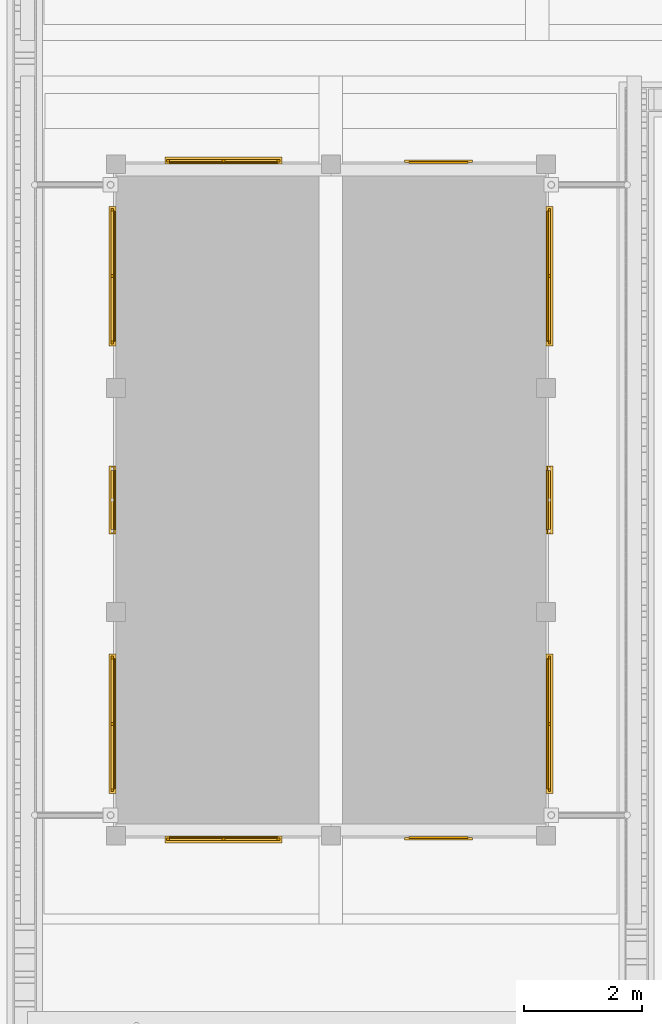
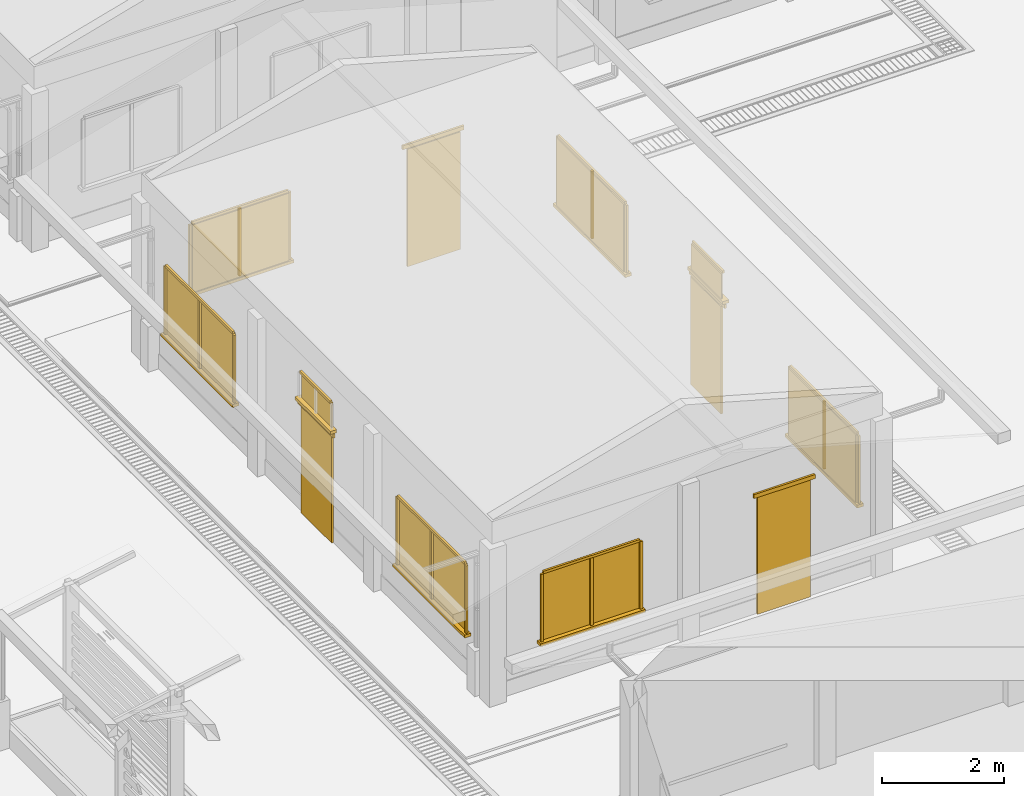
# One storey, part 45 of 151: 42 windows, 8 doors.
"""IFC2X3 building model written with IfcOpenShell, lengths in metres."""

from ifc_helpers import new_model, si_unit, origin, origin_with_axes, place, context, subcontext, project, spatial, faceted_brep, element, save


model = new_model("IFC2X3")

# Units and contexts
model_context = context("Model", 3, precision=1e-05, world=origin_with_axes())
body_context = subcontext(model_context, "Body", "Model", "MODEL_VIEW")
ifc_project = project(units=[si_unit("LENGTHUNIT", "METRE"), si_unit("AREAUNIT", "SQUARE_METRE"), si_unit("VOLUMEUNIT", "CUBIC_METRE"), si_unit("PLANEANGLEUNIT", "RADIAN")], contexts=[model_context])

# Site, building, storey
site_placement = place(None, origin_with_axes())
site = spatial("IfcSite", under=ifc_project, at=site_placement, Name="Predio Los Mangos - Morales, San Martín", CompositionType="ELEMENT")
building_placement = place(site_placement, origin())
building = spatial("IfcBuilding", under=site, at=building_placement, Name="Hogar de Refugio Temporal", CompositionType="ELEMENT")
storey_placement = place(building_placement, origin())
storey = spatial("IfcBuildingStorey", under=building, at=storey_placement, Name="NIVEL 1 (NPT +0.00)", CompositionType="ELEMENT", Elevation=0.0)

# Windows
window_1_placement = place(storey_placement, origin())
element("IfcWindow", 1, at=window_1_placement, inside=storey, Name="E-02_vg0_vid", ObjectType="Ventana", context=body_context, shape_type="Brep", body=[
    faceted_brep([(46.2125, 42.86, 1.05), (46.2125, 42.88, 1.05), (48.0375, 42.88, 1.05), (48.0375, 42.86, 1.05), (46.2125, 42.86, 2.4), (48.0375, 42.86, 2.4), (48.0375, 42.88, 2.4), (46.2125, 42.88, 2.4)], [[[0, 1, 2, 3]], [[4, 5, 6, 7]], [[0, 3, 5, 4]], [[3, 2, 6, 5]], [[2, 1, 7, 6]], [[1, 0, 4, 7]]]),
])
window_2_placement = place(storey_placement, origin())
element("IfcWindow", 2, at=window_2_placement, inside=storey, Name="E-02_vg0_m", ObjectType="Ventana", context=body_context, shape_type="Brep", body=[
    faceted_brep([(46.1625, 42.82, 1.05), (46.1625, 42.86, 1.05), (46.2125, 42.86, 1.05), (46.2125, 42.82, 1.05), (46.1625, 42.82, 2.4), (46.2125, 42.82, 2.4), (46.2125, 42.86, 2.4), (46.1625, 42.86, 2.4)], [[[0, 1, 2, 3]], [[4, 5, 6, 7]], [[0, 3, 5, 4]], [[3, 2, 6, 5]], [[2, 1, 7, 6]], [[1, 0, 4, 7]]]),
])
window_3_placement = place(storey_placement, origin())
element("IfcWindow", 3, at=window_3_placement, inside=storey, Name="E-02_vg0_m", ObjectType="Ventana", context=body_context, shape_type="Brep", body=[
    faceted_brep([(48.0375, 42.82, 1.05), (48.0375, 42.86, 1.05), (48.0875, 42.86, 1.05), (48.0875, 42.82, 1.05), (48.0375, 42.82, 2.4), (48.0875, 42.82, 2.4), (48.0875, 42.86, 2.4), (48.0375, 42.86, 2.4)], [[[0, 1, 2, 3]], [[4, 5, 6, 7]], [[0, 3, 5, 4]], [[3, 2, 6, 5]], [[2, 1, 7, 6]], [[1, 0, 4, 7]]]),
])
window_4_placement = place(storey_placement, origin())
element("IfcWindow", 4, at=window_4_placement, inside=storey, Name="E-02_vg0_m", ObjectType="Ventana", context=body_context, shape_type="Brep", body=[
    faceted_brep([(46.2125, 42.82, 2.4), (46.2125, 42.86, 2.4), (48.0375, 42.86, 2.4), (48.0375, 42.82, 2.4), (46.2125, 42.82, 2.45), (48.0375, 42.82, 2.45), (48.0375, 42.86, 2.45), (46.2125, 42.86, 2.45)], [[[0, 1, 2, 3]], [[4, 5, 6, 7]], [[0, 3, 5, 4]], [[3, 2, 6, 5]], [[2, 1, 7, 6]], [[1, 0, 4, 7]]]),
])
window_5_placement = place(storey_placement, origin())
element("IfcWindow", 5, at=window_5_placement, inside=storey, Name="E-02_vg0_m", ObjectType="Ventana", context=body_context, shape_type="Brep", body=[
    faceted_brep([(47.1, 42.82, 1.05), (47.1, 42.86, 1.05), (47.15, 42.86, 1.05), (47.15, 42.82, 1.05), (47.1, 42.82, 2.4), (47.15, 42.82, 2.4), (47.15, 42.86, 2.4), (47.1, 42.86, 2.4)], [[[0, 1, 2, 3]], [[4, 5, 6, 7]], [[0, 3, 5, 4]], [[3, 2, 6, 5]], [[2, 1, 7, 6]], [[1, 0, 4, 7]]]),
])
window_6_placement = place(storey_placement, origin())
element("IfcWindow", 6, at=window_6_placement, inside=storey, Name="E-02_vg0_alf", ObjectType="Ventana", context=body_context, shape_type="Brep", body=[
    faceted_brep([(46.1325, 42.9, 0.99), (46.1325, 42.78, 0.99), (48.1175, 42.78, 0.99), (48.1175, 42.9, 0.99), (46.1325, 42.9, 1.05), (48.1175, 42.9, 1.05), (48.1175, 42.78, 1.05), (46.1325, 42.78, 1.05)], [[[0, 1, 2, 3]], [[4, 5, 6, 7]], [[0, 3, 5, 4]], [[3, 2, 6, 5]], [[2, 1, 7, 6]], [[1, 0, 4, 7]]]),
])

# Doors
door_1_placement = place(storey_placement, origin())
element("IfcDoor", 7, at=door_1_placement, inside=storey, Name="E-02_pp", ObjectType="Puerta", context=body_context, shape_type="Brep", body=[
    faceted_brep([(50.275, 42.85, 0.15), (50.275, 42.89, 0.15), (51.275, 42.89, 0.15), (51.275, 42.85, 0.15), (50.275, 42.85, 2.5), (51.275, 42.85, 2.5), (51.275, 42.89, 2.5), (50.275, 42.89, 2.5)], [[[0, 1, 2, 3]], [[4, 5, 6, 7]], [[0, 3, 5, 4]], [[3, 2, 6, 5]], [[2, 1, 7, 6]], [[1, 0, 4, 7]]]),
])
door_2_placement = place(storey_placement, origin())
element("IfcDoor", 8, at=door_2_placement, inside=storey, Name="E-02_pp_marco", ObjectType="Puerta", context=body_context, shape_type="Brep", body=[
    faceted_brep([(50.195, 42.83, 2.5), (50.195, 42.87, 2.5), (51.355, 42.87, 2.5), (51.355, 42.83, 2.5), (50.195, 42.83, 2.58), (51.355, 42.83, 2.58), (51.355, 42.87, 2.58), (50.195, 42.87, 2.58)], [[[0, 1, 2, 3]], [[4, 5, 6, 7]], [[0, 3, 5, 4]], [[3, 2, 6, 5]], [[2, 1, 7, 6]], [[1, 0, 4, 7]]]),
])

# Windows
window_7_placement = place(storey_placement, origin())
element("IfcWindow", 9, at=window_7_placement, inside=storey, Name="E-02_vg0_vid", ObjectType="Ventana", context=body_context, shape_type="Brep", body=[
    faceted_brep([(46.2125, 54.32, 1.05), (46.2125, 54.34, 1.05), (48.0375, 54.34, 1.05), (48.0375, 54.32, 1.05), (46.2125, 54.32, 2.4), (48.0375, 54.32, 2.4), (48.0375, 54.34, 2.4), (46.2125, 54.34, 2.4)], [[[0, 1, 2, 3]], [[4, 5, 6, 7]], [[0, 3, 5, 4]], [[3, 2, 6, 5]], [[2, 1, 7, 6]], [[1, 0, 4, 7]]]),
])
window_8_placement = place(storey_placement, origin())
element("IfcWindow", 10, at=window_8_placement, inside=storey, Name="E-02_vg0_m", ObjectType="Ventana", context=body_context, shape_type="Brep", body=[
    faceted_brep([(46.1625, 54.34, 1.05), (46.1625, 54.38, 1.05), (46.2125, 54.38, 1.05), (46.2125, 54.34, 1.05), (46.1625, 54.34, 2.4), (46.2125, 54.34, 2.4), (46.2125, 54.38, 2.4), (46.1625, 54.38, 2.4)], [[[0, 1, 2, 3]], [[4, 5, 6, 7]], [[0, 3, 5, 4]], [[3, 2, 6, 5]], [[2, 1, 7, 6]], [[1, 0, 4, 7]]]),
])
window_9_placement = place(storey_placement, origin())
element("IfcWindow", 11, at=window_9_placement, inside=storey, Name="E-02_vg0_m", ObjectType="Ventana", context=body_context, shape_type="Brep", body=[
    faceted_brep([(48.0375, 54.34, 1.05), (48.0375, 54.38, 1.05), (48.0875, 54.38, 1.05), (48.0875, 54.34, 1.05), (48.0375, 54.34, 2.4), (48.0875, 54.34, 2.4), (48.0875, 54.38, 2.4), (48.0375, 54.38, 2.4)], [[[0, 1, 2, 3]], [[4, 5, 6, 7]], [[0, 3, 5, 4]], [[3, 2, 6, 5]], [[2, 1, 7, 6]], [[1, 0, 4, 7]]]),
])
window_10_placement = place(storey_placement, origin())
element("IfcWindow", 12, at=window_10_placement, inside=storey, Name="E-02_vg0_m", ObjectType="Ventana", context=body_context, shape_type="Brep", body=[
    faceted_brep([(46.2125, 54.34, 2.4), (46.2125, 54.38, 2.4), (48.0375, 54.38, 2.4), (48.0375, 54.34, 2.4), (46.2125, 54.34, 2.45), (48.0375, 54.34, 2.45), (48.0375, 54.38, 2.45), (46.2125, 54.38, 2.45)], [[[0, 1, 2, 3]], [[4, 5, 6, 7]], [[0, 3, 5, 4]], [[3, 2, 6, 5]], [[2, 1, 7, 6]], [[1, 0, 4, 7]]]),
])
window_11_placement = place(storey_placement, origin())
element("IfcWindow", 13, at=window_11_placement, inside=storey, Name="E-02_vg0_m", ObjectType="Ventana", context=body_context, shape_type="Brep", body=[
    faceted_brep([(47.1, 54.34, 1.05), (47.1, 54.38, 1.05), (47.15, 54.38, 1.05), (47.15, 54.34, 1.05), (47.1, 54.34, 2.4), (47.15, 54.34, 2.4), (47.15, 54.38, 2.4), (47.1, 54.38, 2.4)], [[[0, 1, 2, 3]], [[4, 5, 6, 7]], [[0, 3, 5, 4]], [[3, 2, 6, 5]], [[2, 1, 7, 6]], [[1, 0, 4, 7]]]),
])
window_12_placement = place(storey_placement, origin())
element("IfcWindow", 14, at=window_12_placement, inside=storey, Name="E-02_vg0_alf", ObjectType="Ventana", context=body_context, shape_type="Brep", body=[
    faceted_brep([(46.1325, 54.3, 0.99), (46.1325, 54.42, 0.99), (48.1175, 54.42, 0.99), (48.1175, 54.3, 0.99), (46.1325, 54.3, 1.05), (48.1175, 54.3, 1.05), (48.1175, 54.42, 1.05), (46.1325, 54.42, 1.05)], [[[0, 1, 2, 3]], [[4, 5, 6, 7]], [[0, 3, 5, 4]], [[3, 2, 6, 5]], [[2, 1, 7, 6]], [[1, 0, 4, 7]]]),
])

# Doors
door_3_placement = place(storey_placement, origin())
element("IfcDoor", 15, at=door_3_placement, inside=storey, Name="E-02_pp", ObjectType="Puerta", context=body_context, shape_type="Brep", body=[
    faceted_brep([(50.275, 54.31, 0.15), (50.275, 54.35, 0.15), (51.275, 54.35, 0.15), (51.275, 54.31, 0.15), (50.275, 54.31, 2.5), (51.275, 54.31, 2.5), (51.275, 54.35, 2.5), (50.275, 54.35, 2.5)], [[[0, 1, 2, 3]], [[4, 5, 6, 7]], [[0, 3, 5, 4]], [[3, 2, 6, 5]], [[2, 1, 7, 6]], [[1, 0, 4, 7]]]),
])
door_4_placement = place(storey_placement, origin())
element("IfcDoor", 16, at=door_4_placement, inside=storey, Name="E-02_pp_marco", ObjectType="Puerta", context=body_context, shape_type="Brep", body=[
    faceted_brep([(50.195, 54.33, 2.5), (50.195, 54.37, 2.5), (51.355, 54.37, 2.5), (51.355, 54.33, 2.5), (50.195, 54.33, 2.58), (51.355, 54.33, 2.58), (51.355, 54.37, 2.58), (50.195, 54.37, 2.58)], [[[0, 1, 2, 3]], [[4, 5, 6, 7]], [[0, 3, 5, 4]], [[3, 2, 6, 5]], [[2, 1, 7, 6]], [[1, 0, 4, 7]]]),
])

# Windows
window_13_placement = place(storey_placement, origin())
element("IfcWindow", 17, at=window_13_placement, inside=storey, Name="E-02_v0_vid", ObjectType="Ventana", context=body_context, shape_type="Brep", body=[
    faceted_brep([(45.26, 43.698, 1.05), (45.26, 45.902, 1.05), (45.28, 45.902, 1.05), (45.28, 43.698, 1.05), (45.26, 43.698, 2.4), (45.28, 43.698, 2.4), (45.28, 45.902, 2.4), (45.26, 45.902, 2.4)], [[[0, 1, 2, 3]], [[4, 5, 6, 7]], [[0, 3, 5, 4]], [[3, 2, 6, 5]], [[2, 1, 7, 6]], [[1, 0, 4, 7]]]),
])
window_14_placement = place(storey_placement, origin())
element("IfcWindow", 18, at=window_14_placement, inside=storey, Name="E-02_v0_m", ObjectType="Ventana", context=body_context, shape_type="Brep", body=[
    faceted_brep([(45.22, 43.648, 1.05), (45.22, 43.698, 1.05), (45.26, 43.698, 1.05), (45.26, 43.648, 1.05), (45.22, 43.648, 2.4), (45.26, 43.648, 2.4), (45.26, 43.698, 2.4), (45.22, 43.698, 2.4)], [[[0, 1, 2, 3]], [[4, 5, 6, 7]], [[0, 3, 5, 4]], [[3, 2, 6, 5]], [[2, 1, 7, 6]], [[1, 0, 4, 7]]]),
])
window_15_placement = place(storey_placement, origin())
element("IfcWindow", 19, at=window_15_placement, inside=storey, Name="E-02_v0_m", ObjectType="Ventana", context=body_context, shape_type="Brep", body=[
    faceted_brep([(45.22, 45.902, 1.05), (45.22, 45.952, 1.05), (45.26, 45.952, 1.05), (45.26, 45.902, 1.05), (45.22, 45.902, 2.4), (45.26, 45.902, 2.4), (45.26, 45.952, 2.4), (45.22, 45.952, 2.4)], [[[0, 1, 2, 3]], [[4, 5, 6, 7]], [[0, 3, 5, 4]], [[3, 2, 6, 5]], [[2, 1, 7, 6]], [[1, 0, 4, 7]]]),
])
window_16_placement = place(storey_placement, origin())
element("IfcWindow", 20, at=window_16_placement, inside=storey, Name="E-02_v0_m", ObjectType="Ventana", context=body_context, shape_type="Brep", body=[
    faceted_brep([(45.22, 43.698, 2.4), (45.22, 45.902, 2.4), (45.26, 45.902, 2.4), (45.26, 43.698, 2.4), (45.22, 43.698, 2.45), (45.26, 43.698, 2.45), (45.26, 45.902, 2.45), (45.22, 45.902, 2.45)], [[[0, 1, 2, 3]], [[4, 5, 6, 7]], [[0, 3, 5, 4]], [[3, 2, 6, 5]], [[2, 1, 7, 6]], [[1, 0, 4, 7]]]),
])
window_17_placement = place(storey_placement, origin())
element("IfcWindow", 21, at=window_17_placement, inside=storey, Name="E-02_v0_m", ObjectType="Ventana", context=body_context, shape_type="Brep", body=[
    faceted_brep([(45.22, 44.775, 1.05), (45.22, 44.825, 1.05), (45.26, 44.825, 1.05), (45.26, 44.775, 1.05), (45.22, 44.775, 2.4), (45.26, 44.775, 2.4), (45.26, 44.825, 2.4), (45.22, 44.825, 2.4)], [[[0, 1, 2, 3]], [[4, 5, 6, 7]], [[0, 3, 5, 4]], [[3, 2, 6, 5]], [[2, 1, 7, 6]], [[1, 0, 4, 7]]]),
])
window_18_placement = place(storey_placement, origin())
element("IfcWindow", 22, at=window_18_placement, inside=storey, Name="E-02_v0_alf", ObjectType="Ventana", context=body_context, shape_type="Brep", body=[
    faceted_brep([(45.3, 43.618, 0.99), (45.3, 45.982, 0.99), (45.18, 45.982, 0.99), (45.18, 43.618, 0.99), (45.3, 43.618, 1.05), (45.18, 43.618, 1.05), (45.18, 45.982, 1.05), (45.3, 45.982, 1.05)], [[[0, 1, 2, 3]], [[4, 5, 6, 7]], [[0, 3, 5, 4]], [[3, 2, 6, 5]], [[2, 1, 7, 6]], [[1, 0, 4, 7]]]),
])

# Doors
door_5_placement = place(storey_placement, origin())
element("IfcDoor", 23, at=door_5_placement, inside=storey, Name="E-02_p1", ObjectType="Puerta", context=body_context, shape_type="Brep", body=[
    faceted_brep([(45.25, 48.1, 0.15), (45.25, 49.1, 0.15), (45.29, 49.1, 0.15), (45.29, 48.1, 0.15), (45.25, 48.1, 2.3), (45.29, 48.1, 2.3), (45.29, 49.1, 2.3), (45.25, 49.1, 2.3)], [[[0, 1, 2, 3]], [[4, 5, 6, 7]], [[0, 3, 5, 4]], [[3, 2, 6, 5]], [[2, 1, 7, 6]], [[1, 0, 4, 7]]]),
])
door_6_placement = place(storey_placement, origin())
element("IfcDoor", 24, at=door_6_placement, inside=storey, Name="E-02_p1_marco", ObjectType="Puerta", context=body_context, shape_type="Brep", body=[
    faceted_brep([(45.23, 48.02, 2.3), (45.23, 49.18, 2.3), (45.27, 49.18, 2.3), (45.27, 48.02, 2.3), (45.23, 48.02, 2.38), (45.27, 48.02, 2.38), (45.27, 49.18, 2.38), (45.23, 49.18, 2.38)], [[[0, 1, 2, 3]], [[4, 5, 6, 7]], [[0, 3, 5, 4]], [[3, 2, 6, 5]], [[2, 1, 7, 6]], [[1, 0, 4, 7]]]),
])

# Windows
window_19_placement = place(storey_placement, origin())
element("IfcWindow", 25, at=window_19_placement, inside=storey, Name="E-02_vt1_vid", ObjectType="Ventana", context=body_context, shape_type="Brep", body=[
    faceted_brep([(45.26, 48.1, 2.45), (45.26, 49.1, 2.45), (45.28, 49.1, 2.45), (45.28, 48.1, 2.45), (45.26, 48.1, 2.95), (45.28, 48.1, 2.95), (45.28, 49.1, 2.95), (45.26, 49.1, 2.95)], [[[0, 1, 2, 3]], [[4, 5, 6, 7]], [[0, 3, 5, 4]], [[3, 2, 6, 5]], [[2, 1, 7, 6]], [[1, 0, 4, 7]]]),
])
window_20_placement = place(storey_placement, origin())
element("IfcWindow", 26, at=window_20_placement, inside=storey, Name="E-02_vt1_m", ObjectType="Ventana", context=body_context, shape_type="Brep", body=[
    faceted_brep([(45.22, 48.1, 2.95), (45.22, 49.1, 2.95), (45.26, 49.1, 2.95), (45.26, 48.1, 2.95), (45.22, 48.1, 3.0), (45.26, 48.1, 3.0), (45.26, 49.1, 3.0), (45.22, 49.1, 3.0)], [[[0, 1, 2, 3]], [[4, 5, 6, 7]], [[0, 3, 5, 4]], [[3, 2, 6, 5]], [[2, 1, 7, 6]], [[1, 0, 4, 7]]]),
])
window_21_placement = place(storey_placement, origin())
element("IfcWindow", 27, at=window_21_placement, inside=storey, Name="E-02_vt1_alf", ObjectType="Ventana", context=body_context, shape_type="Brep", body=[
    faceted_brep([(45.3, 48.02, 2.39), (45.3, 49.18, 2.39), (45.18, 49.18, 2.39), (45.18, 48.02, 2.39), (45.3, 48.02, 2.45), (45.18, 48.02, 2.45), (45.18, 49.18, 2.45), (45.3, 49.18, 2.45)], [[[0, 1, 2, 3]], [[4, 5, 6, 7]], [[0, 3, 5, 4]], [[3, 2, 6, 5]], [[2, 1, 7, 6]], [[1, 0, 4, 7]]]),
])
window_22_placement = place(storey_placement, origin())
element("IfcWindow", 28, at=window_22_placement, inside=storey, Name="E-02_v2_vid", ObjectType="Ventana", context=body_context, shape_type="Brep", body=[
    faceted_brep([(45.26, 51.298, 1.05), (45.26, 53.502, 1.05), (45.28, 53.502, 1.05), (45.28, 51.298, 1.05), (45.26, 51.298, 2.4), (45.28, 51.298, 2.4), (45.28, 53.502, 2.4), (45.26, 53.502, 2.4)], [[[0, 1, 2, 3]], [[4, 5, 6, 7]], [[0, 3, 5, 4]], [[3, 2, 6, 5]], [[2, 1, 7, 6]], [[1, 0, 4, 7]]]),
])
window_23_placement = place(storey_placement, origin())
element("IfcWindow", 29, at=window_23_placement, inside=storey, Name="E-02_v2_m", ObjectType="Ventana", context=body_context, shape_type="Brep", body=[
    faceted_brep([(45.22, 51.248, 1.05), (45.22, 51.298, 1.05), (45.26, 51.298, 1.05), (45.26, 51.248, 1.05), (45.22, 51.248, 2.4), (45.26, 51.248, 2.4), (45.26, 51.298, 2.4), (45.22, 51.298, 2.4)], [[[0, 1, 2, 3]], [[4, 5, 6, 7]], [[0, 3, 5, 4]], [[3, 2, 6, 5]], [[2, 1, 7, 6]], [[1, 0, 4, 7]]]),
])
window_24_placement = place(storey_placement, origin())
element("IfcWindow", 30, at=window_24_placement, inside=storey, Name="E-02_v2_m", ObjectType="Ventana", context=body_context, shape_type="Brep", body=[
    faceted_brep([(45.22, 53.502, 1.05), (45.22, 53.552, 1.05), (45.26, 53.552, 1.05), (45.26, 53.502, 1.05), (45.22, 53.502, 2.4), (45.26, 53.502, 2.4), (45.26, 53.552, 2.4), (45.22, 53.552, 2.4)], [[[0, 1, 2, 3]], [[4, 5, 6, 7]], [[0, 3, 5, 4]], [[3, 2, 6, 5]], [[2, 1, 7, 6]], [[1, 0, 4, 7]]]),
])
window_25_placement = place(storey_placement, origin())
element("IfcWindow", 31, at=window_25_placement, inside=storey, Name="E-02_v2_m", ObjectType="Ventana", context=body_context, shape_type="Brep", body=[
    faceted_brep([(45.22, 51.298, 2.4), (45.22, 53.502, 2.4), (45.26, 53.502, 2.4), (45.26, 51.298, 2.4), (45.22, 51.298, 2.45), (45.26, 51.298, 2.45), (45.26, 53.502, 2.45), (45.22, 53.502, 2.45)], [[[0, 1, 2, 3]], [[4, 5, 6, 7]], [[0, 3, 5, 4]], [[3, 2, 6, 5]], [[2, 1, 7, 6]], [[1, 0, 4, 7]]]),
])
window_26_placement = place(storey_placement, origin())
element("IfcWindow", 32, at=window_26_placement, inside=storey, Name="E-02_v2_m", ObjectType="Ventana", context=body_context, shape_type="Brep", body=[
    faceted_brep([(45.22, 52.375, 1.05), (45.22, 52.425, 1.05), (45.26, 52.425, 1.05), (45.26, 52.375, 1.05), (45.22, 52.375, 2.4), (45.26, 52.375, 2.4), (45.26, 52.425, 2.4), (45.22, 52.425, 2.4)], [[[0, 1, 2, 3]], [[4, 5, 6, 7]], [[0, 3, 5, 4]], [[3, 2, 6, 5]], [[2, 1, 7, 6]], [[1, 0, 4, 7]]]),
])
window_27_placement = place(storey_placement, origin())
element("IfcWindow", 33, at=window_27_placement, inside=storey, Name="E-02_v2_alf", ObjectType="Ventana", context=body_context, shape_type="Brep", body=[
    faceted_brep([(45.3, 51.218, 0.99), (45.3, 53.582, 0.99), (45.18, 53.582, 0.99), (45.18, 51.218, 0.99), (45.3, 51.218, 1.05), (45.18, 51.218, 1.05), (45.18, 53.582, 1.05), (45.3, 53.582, 1.05)], [[[0, 1, 2, 3]], [[4, 5, 6, 7]], [[0, 3, 5, 4]], [[3, 2, 6, 5]], [[2, 1, 7, 6]], [[1, 0, 4, 7]]]),
])
window_28_placement = place(storey_placement, origin())
element("IfcWindow", 34, at=window_28_placement, inside=storey, Name="E-02_v0_vid", ObjectType="Ventana", context=body_context, shape_type="Brep", body=[
    faceted_brep([(52.62, 43.698, 1.05), (52.62, 45.902, 1.05), (52.64, 45.902, 1.05), (52.64, 43.698, 1.05), (52.62, 43.698, 2.4), (52.64, 43.698, 2.4), (52.64, 45.902, 2.4), (52.62, 45.902, 2.4)], [[[0, 1, 2, 3]], [[4, 5, 6, 7]], [[0, 3, 5, 4]], [[3, 2, 6, 5]], [[2, 1, 7, 6]], [[1, 0, 4, 7]]]),
])
window_29_placement = place(storey_placement, origin())
element("IfcWindow", 35, at=window_29_placement, inside=storey, Name="E-02_v0_m", ObjectType="Ventana", context=body_context, shape_type="Brep", body=[
    faceted_brep([(52.64, 43.648, 1.05), (52.64, 43.698, 1.05), (52.68, 43.698, 1.05), (52.68, 43.648, 1.05), (52.64, 43.648, 2.4), (52.68, 43.648, 2.4), (52.68, 43.698, 2.4), (52.64, 43.698, 2.4)], [[[0, 1, 2, 3]], [[4, 5, 6, 7]], [[0, 3, 5, 4]], [[3, 2, 6, 5]], [[2, 1, 7, 6]], [[1, 0, 4, 7]]]),
])
window_30_placement = place(storey_placement, origin())
element("IfcWindow", 36, at=window_30_placement, inside=storey, Name="E-02_v0_m", ObjectType="Ventana", context=body_context, shape_type="Brep", body=[
    faceted_brep([(52.64, 45.902, 1.05), (52.64, 45.952, 1.05), (52.68, 45.952, 1.05), (52.68, 45.902, 1.05), (52.64, 45.902, 2.4), (52.68, 45.902, 2.4), (52.68, 45.952, 2.4), (52.64, 45.952, 2.4)], [[[0, 1, 2, 3]], [[4, 5, 6, 7]], [[0, 3, 5, 4]], [[3, 2, 6, 5]], [[2, 1, 7, 6]], [[1, 0, 4, 7]]]),
])
window_31_placement = place(storey_placement, origin())
element("IfcWindow", 37, at=window_31_placement, inside=storey, Name="E-02_v0_m", ObjectType="Ventana", context=body_context, shape_type="Brep", body=[
    faceted_brep([(52.64, 43.698, 2.4), (52.64, 45.902, 2.4), (52.68, 45.902, 2.4), (52.68, 43.698, 2.4), (52.64, 43.698, 2.45), (52.68, 43.698, 2.45), (52.68, 45.902, 2.45), (52.64, 45.902, 2.45)], [[[0, 1, 2, 3]], [[4, 5, 6, 7]], [[0, 3, 5, 4]], [[3, 2, 6, 5]], [[2, 1, 7, 6]], [[1, 0, 4, 7]]]),
])
window_32_placement = place(storey_placement, origin())
element("IfcWindow", 38, at=window_32_placement, inside=storey, Name="E-02_v0_m", ObjectType="Ventana", context=body_context, shape_type="Brep", body=[
    faceted_brep([(52.64, 44.775, 1.05), (52.64, 44.825, 1.05), (52.68, 44.825, 1.05), (52.68, 44.775, 1.05), (52.64, 44.775, 2.4), (52.68, 44.775, 2.4), (52.68, 44.825, 2.4), (52.64, 44.825, 2.4)], [[[0, 1, 2, 3]], [[4, 5, 6, 7]], [[0, 3, 5, 4]], [[3, 2, 6, 5]], [[2, 1, 7, 6]], [[1, 0, 4, 7]]]),
])
window_33_placement = place(storey_placement, origin())
element("IfcWindow", 39, at=window_33_placement, inside=storey, Name="E-02_v0_alf", ObjectType="Ventana", context=body_context, shape_type="Brep", body=[
    faceted_brep([(52.6, 43.618, 0.99), (52.6, 45.982, 0.99), (52.72, 45.982, 0.99), (52.72, 43.618, 0.99), (52.6, 43.618, 1.05), (52.72, 43.618, 1.05), (52.72, 45.982, 1.05), (52.6, 45.982, 1.05)], [[[0, 1, 2, 3]], [[4, 5, 6, 7]], [[0, 3, 5, 4]], [[3, 2, 6, 5]], [[2, 1, 7, 6]], [[1, 0, 4, 7]]]),
])

# Doors
door_7_placement = place(storey_placement, origin())
element("IfcDoor", 40, at=door_7_placement, inside=storey, Name="E-02_p1", ObjectType="Puerta", context=body_context, shape_type="Brep", body=[
    faceted_brep([(52.61, 48.1, 0.15), (52.61, 49.1, 0.15), (52.65, 49.1, 0.15), (52.65, 48.1, 0.15), (52.61, 48.1, 2.3), (52.65, 48.1, 2.3), (52.65, 49.1, 2.3), (52.61, 49.1, 2.3)], [[[0, 1, 2, 3]], [[4, 5, 6, 7]], [[0, 3, 5, 4]], [[3, 2, 6, 5]], [[2, 1, 7, 6]], [[1, 0, 4, 7]]]),
])
door_8_placement = place(storey_placement, origin())
element("IfcDoor", 41, at=door_8_placement, inside=storey, Name="E-02_p1_marco", ObjectType="Puerta", context=body_context, shape_type="Brep", body=[
    faceted_brep([(52.63, 48.02, 2.3), (52.63, 49.18, 2.3), (52.67, 49.18, 2.3), (52.67, 48.02, 2.3), (52.63, 48.02, 2.38), (52.67, 48.02, 2.38), (52.67, 49.18, 2.38), (52.63, 49.18, 2.38)], [[[0, 1, 2, 3]], [[4, 5, 6, 7]], [[0, 3, 5, 4]], [[3, 2, 6, 5]], [[2, 1, 7, 6]], [[1, 0, 4, 7]]]),
])

# Windows
window_34_placement = place(storey_placement, origin())
element("IfcWindow", 42, at=window_34_placement, inside=storey, Name="E-02_vt1_vid", ObjectType="Ventana", context=body_context, shape_type="Brep", body=[
    faceted_brep([(52.62, 48.1, 2.45), (52.62, 49.1, 2.45), (52.64, 49.1, 2.45), (52.64, 48.1, 2.45), (52.62, 48.1, 2.95), (52.64, 48.1, 2.95), (52.64, 49.1, 2.95), (52.62, 49.1, 2.95)], [[[0, 1, 2, 3]], [[4, 5, 6, 7]], [[0, 3, 5, 4]], [[3, 2, 6, 5]], [[2, 1, 7, 6]], [[1, 0, 4, 7]]]),
])
window_35_placement = place(storey_placement, origin())
element("IfcWindow", 43, at=window_35_placement, inside=storey, Name="E-02_vt1_m", ObjectType="Ventana", context=body_context, shape_type="Brep", body=[
    faceted_brep([(52.64, 48.1, 2.95), (52.64, 49.1, 2.95), (52.68, 49.1, 2.95), (52.68, 48.1, 2.95), (52.64, 48.1, 3.0), (52.68, 48.1, 3.0), (52.68, 49.1, 3.0), (52.64, 49.1, 3.0)], [[[0, 1, 2, 3]], [[4, 5, 6, 7]], [[0, 3, 5, 4]], [[3, 2, 6, 5]], [[2, 1, 7, 6]], [[1, 0, 4, 7]]]),
])
window_36_placement = place(storey_placement, origin())
element("IfcWindow", 44, at=window_36_placement, inside=storey, Name="E-02_vt1_alf", ObjectType="Ventana", context=body_context, shape_type="Brep", body=[
    faceted_brep([(52.6, 48.02, 2.39), (52.6, 49.18, 2.39), (52.72, 49.18, 2.39), (52.72, 48.02, 2.39), (52.6, 48.02, 2.45), (52.72, 48.02, 2.45), (52.72, 49.18, 2.45), (52.6, 49.18, 2.45)], [[[0, 1, 2, 3]], [[4, 5, 6, 7]], [[0, 3, 5, 4]], [[3, 2, 6, 5]], [[2, 1, 7, 6]], [[1, 0, 4, 7]]]),
])
window_37_placement = place(storey_placement, origin())
element("IfcWindow", 45, at=window_37_placement, inside=storey, Name="E-02_v2_vid", ObjectType="Ventana", context=body_context, shape_type="Brep", body=[
    faceted_brep([(52.62, 51.298, 1.05), (52.62, 53.502, 1.05), (52.64, 53.502, 1.05), (52.64, 51.298, 1.05), (52.62, 51.298, 2.4), (52.64, 51.298, 2.4), (52.64, 53.502, 2.4), (52.62, 53.502, 2.4)], [[[0, 1, 2, 3]], [[4, 5, 6, 7]], [[0, 3, 5, 4]], [[3, 2, 6, 5]], [[2, 1, 7, 6]], [[1, 0, 4, 7]]]),
])
window_38_placement = place(storey_placement, origin())
element("IfcWindow", 46, at=window_38_placement, inside=storey, Name="E-02_v2_m", ObjectType="Ventana", context=body_context, shape_type="Brep", body=[
    faceted_brep([(52.64, 51.248, 1.05), (52.64, 51.298, 1.05), (52.68, 51.298, 1.05), (52.68, 51.248, 1.05), (52.64, 51.248, 2.4), (52.68, 51.248, 2.4), (52.68, 51.298, 2.4), (52.64, 51.298, 2.4)], [[[0, 1, 2, 3]], [[4, 5, 6, 7]], [[0, 3, 5, 4]], [[3, 2, 6, 5]], [[2, 1, 7, 6]], [[1, 0, 4, 7]]]),
])
window_39_placement = place(storey_placement, origin())
element("IfcWindow", 47, at=window_39_placement, inside=storey, Name="E-02_v2_m", ObjectType="Ventana", context=body_context, shape_type="Brep", body=[
    faceted_brep([(52.64, 53.502, 1.05), (52.64, 53.552, 1.05), (52.68, 53.552, 1.05), (52.68, 53.502, 1.05), (52.64, 53.502, 2.4), (52.68, 53.502, 2.4), (52.68, 53.552, 2.4), (52.64, 53.552, 2.4)], [[[0, 1, 2, 3]], [[4, 5, 6, 7]], [[0, 3, 5, 4]], [[3, 2, 6, 5]], [[2, 1, 7, 6]], [[1, 0, 4, 7]]]),
])
window_40_placement = place(storey_placement, origin())
element("IfcWindow", 48, at=window_40_placement, inside=storey, Name="E-02_v2_m", ObjectType="Ventana", context=body_context, shape_type="Brep", body=[
    faceted_brep([(52.64, 51.298, 2.4), (52.64, 53.502, 2.4), (52.68, 53.502, 2.4), (52.68, 51.298, 2.4), (52.64, 51.298, 2.45), (52.68, 51.298, 2.45), (52.68, 53.502, 2.45), (52.64, 53.502, 2.45)], [[[0, 1, 2, 3]], [[4, 5, 6, 7]], [[0, 3, 5, 4]], [[3, 2, 6, 5]], [[2, 1, 7, 6]], [[1, 0, 4, 7]]]),
])
window_41_placement = place(storey_placement, origin())
element("IfcWindow", 49, at=window_41_placement, inside=storey, Name="E-02_v2_m", ObjectType="Ventana", context=body_context, shape_type="Brep", body=[
    faceted_brep([(52.64, 52.375, 1.05), (52.64, 52.425, 1.05), (52.68, 52.425, 1.05), (52.68, 52.375, 1.05), (52.64, 52.375, 2.4), (52.68, 52.375, 2.4), (52.68, 52.425, 2.4), (52.64, 52.425, 2.4)], [[[0, 1, 2, 3]], [[4, 5, 6, 7]], [[0, 3, 5, 4]], [[3, 2, 6, 5]], [[2, 1, 7, 6]], [[1, 0, 4, 7]]]),
])
window_42_placement = place(storey_placement, origin())
element("IfcWindow", 50, at=window_42_placement, inside=storey, Name="E-02_v2_alf", ObjectType="Ventana", context=body_context, shape_type="Brep", body=[
    faceted_brep([(52.6, 51.218, 0.99), (52.6, 53.582, 0.99), (52.72, 53.582, 0.99), (52.72, 51.218, 0.99), (52.6, 51.218, 1.05), (52.72, 51.218, 1.05), (52.72, 53.582, 1.05), (52.6, 53.582, 1.05)], [[[0, 1, 2, 3]], [[4, 5, 6, 7]], [[0, 3, 5, 4]], [[3, 2, 6, 5]], [[2, 1, 7, 6]], [[1, 0, 4, 7]]]),
])

save(model, "model.ifc")
